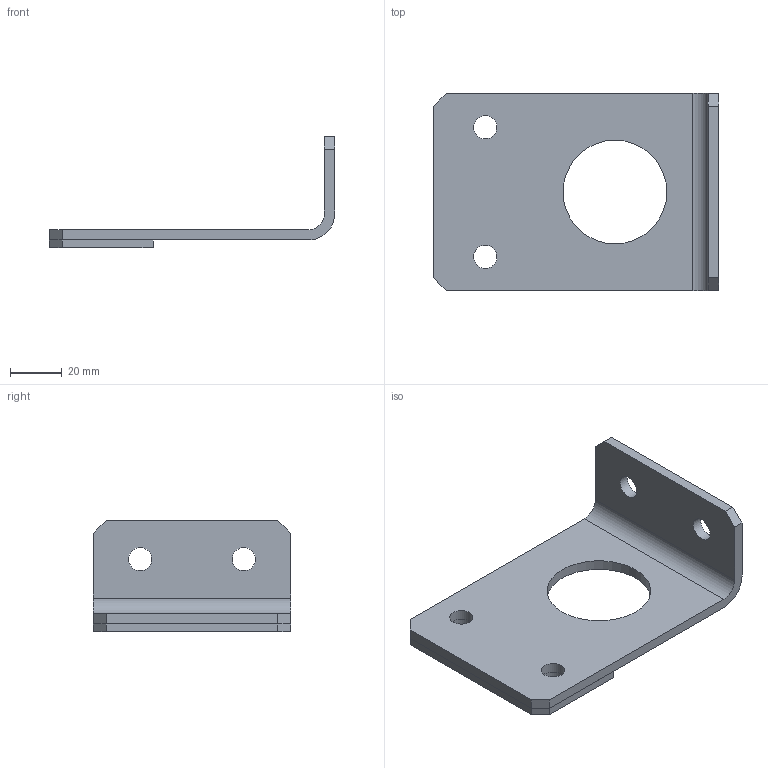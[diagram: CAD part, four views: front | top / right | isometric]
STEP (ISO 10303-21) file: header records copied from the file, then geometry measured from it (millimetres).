
FILE_DESCRIPTION(/* description */ ('SUPPORT VESSIE D''EQUIPRESSION','CAx-IF Rec.Pracs.---Representation and Presentation of Product Manufacturing Information (PMI)---4.0---2014-10-13'),/* implementation_level */ '2;1');
FILE_NAME(/* name */ 'vv810013-A.stp',/* time_stamp */ '2025-10-14T13:22:36+02:00',/* author */ ('RIVIERE C.'),/* organization */ (''),/* preprocessor_version */ 'ST-DEVELOPER v20',/* originating_system */ 'Autodesk Inventor 2025',/* authorisation */ '');
FILE_SCHEMA (('AP242_MANAGED_MODEL_BASED_3D_ENGINEERING_MIM_LF { 1 0 10303 442 1 1 4 }'));
Length unit declared in the file: millimetre
Products named in the file (1): VICTOR.V.81.00.13
Bounding box: 110 x 76 x 43 mm (x, y, z)
Volume: 45759 mm3; surface area: 27828.2 mm2
Topology: 2 solids, 2 shells, 29 faces, 75 edges, 50 vertices
Faces by surface type: plane 20, cylinder 9
Full cylindrical faces by diameter (mm): 9 x6, 40 x1
Entity records: 1149 total; most frequent: CARTESIAN_POINT 210, DIRECTION 171, ORIENTED_EDGE 150, EDGE_CURVE 75, LINE 57, VECTOR 57, AXIS2_PLACEMENT_3D 57, VERTEX_POINT 50
